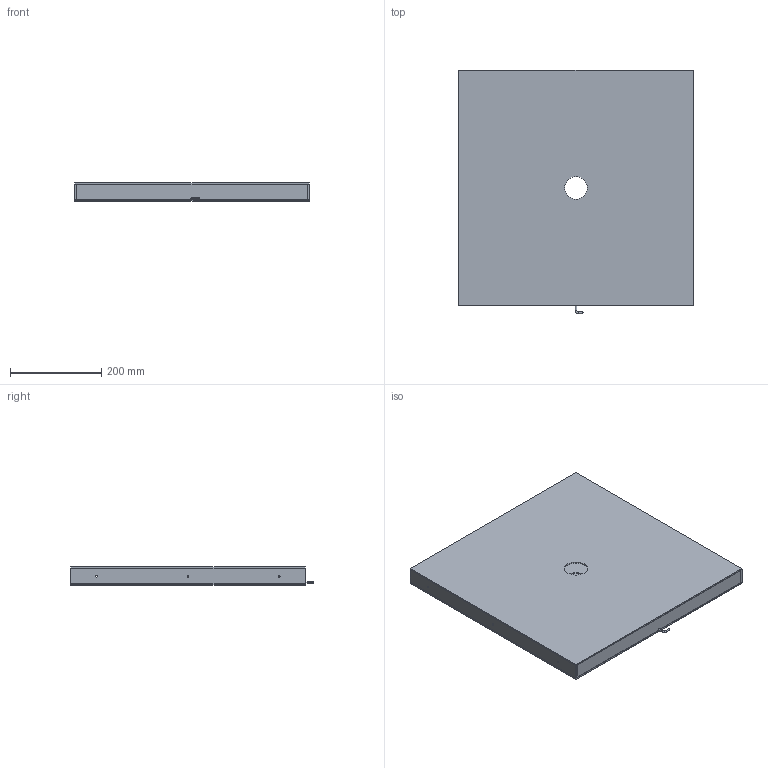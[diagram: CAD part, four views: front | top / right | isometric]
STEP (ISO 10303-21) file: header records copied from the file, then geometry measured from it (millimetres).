
FILE_DESCRIPTION (( 'STEP AP203' ), '1' );
FILE_NAME ('CRT-KFLD500500Y50-¼òÒ×3DÍ¼.STEP', '2021-11-24T02:59:31', ( 'Admin' ), ( '' ), 'SwSTEP 2.0', 'SolidWorks 2018', '' );
FILE_SCHEMA (( 'CONFIG_CONTROL_DESIGN' ));
Length unit declared in the file: millimetre
Products named in the file (1): CRT-KFLD500500Y50-潠眢3D芞
Bounding box: 514 x 531.75 x 40 mm (x, y, z)
Surface area: 1377904.7 mm2 (no closed solid volume)
Topology: 0 solids, 8 shells, 59 faces, 186 edges, 132 vertices
Faces by surface type: plane 31, cylinder 25, bspline 2, cone 1
Entity records: 2179 total; most frequent: CARTESIAN_POINT 464, DIRECTION 347, ORIENTED_EDGE 280, EDGE_CURVE 186, LINE 133, VECTOR 133, VERTEX_POINT 132, AXIS2_PLACEMENT_3D 107
